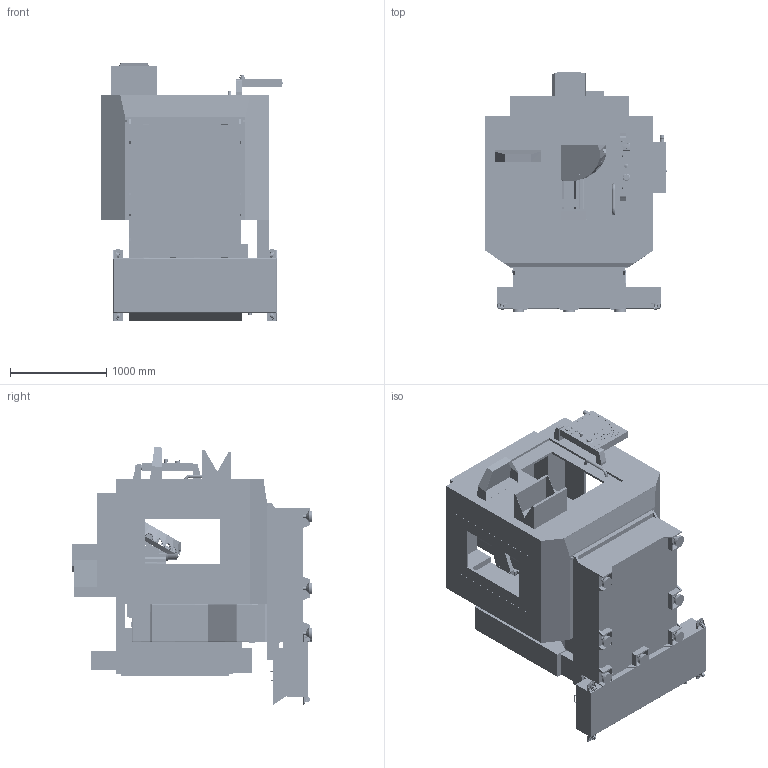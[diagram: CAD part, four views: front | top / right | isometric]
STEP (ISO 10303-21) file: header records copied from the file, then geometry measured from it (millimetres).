
FILE_DESCRIPTION (( 'STEP AP203' ), '1' );
FILE_NAME ('DC-1-40T -12_2024.STEP', '2024-12-05T23:57:26', ( '' ), ( '' ), 'SwSTEP 2.0', 'SolidWorks 2022', '' );
FILE_SCHEMA (( 'CONFIG_CONTROL_DESIGN' ));
Length unit declared in the file: inch
Products named in the file (11): DC-1-40T Enclosure; DC-1-40T Leveling Pads; DC-1-40T -12_2024; DC-1-40T 20 PKT Tool Changer; DC-1-40T Waycovers; DC-1-40T Z Axis; DC-1-40T Control Panel; DC-1-40T Base and Column; DC-1-40T Saddle; DC-1-40T Coolant Tank; DC-1-40T Table
Assembly tree (10 placements, depth 2):
  DC-1-40T -12_2024
    DC-1-40T Base and Column
    DC-1-40T Leveling Pads
    DC-1-40T Saddle
    DC-1-40T Table
    DC-1-40T Waycovers
    DC-1-40T 20 PKT Tool Changer
    DC-1-40T Z Axis
    DC-1-40T Enclosure
    DC-1-40T Control Panel
    DC-1-40T Coolant Tank
Bounding box: 1890.48 x 2494 x 2692.51 mm (x, y, z)
Volume: 2107073571.9 mm3; surface area: 60168008.9 mm2
Topology: 21 solids, 36 shells, 16873 faces, 45403 edges, 28890 vertices
Faces by surface type: plane 7794, cylinder 6548, torus 1191, cone 542, bspline 500, sphere 298
Entity records: 544247 total; most frequent: CARTESIAN_POINT 116260, DIRECTION 90471, ORIENTED_EDGE 90360, EDGE_CURVE 45180, AXIS2_PLACEMENT_3D 32300, VERTEX_POINT 28842, VECTOR 25871, LINE 25871
